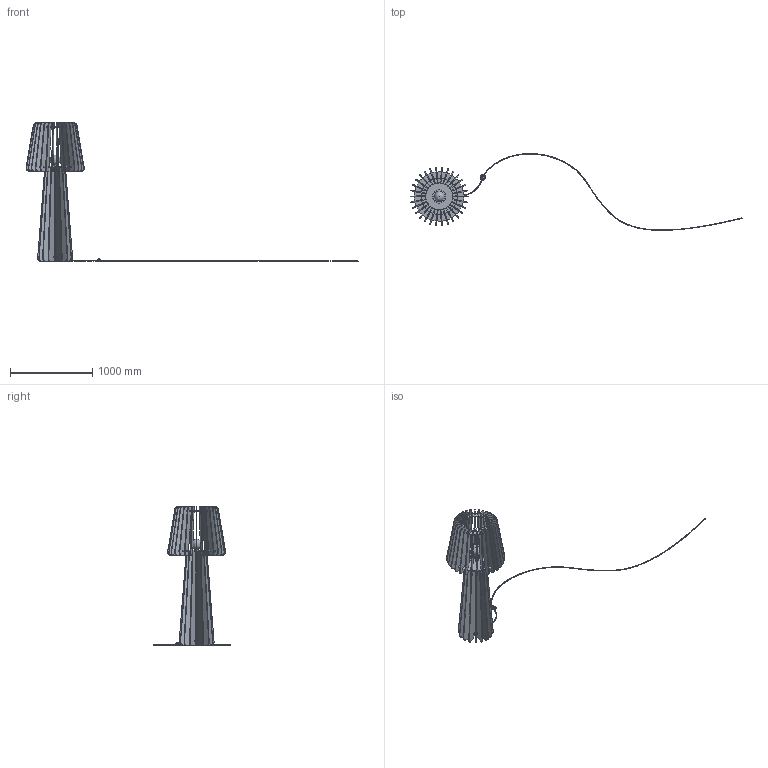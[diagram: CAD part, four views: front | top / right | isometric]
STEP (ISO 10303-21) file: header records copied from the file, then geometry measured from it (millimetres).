
FILE_DESCRIPTION(/* description */ ('','CAx-IF Rec.Pracs.---Representation and Presentation of Product Manufacturing Information (PMI)---4.0---2014-10-13'),/* implementation_level */ '2;1');
FILE_NAME(/* name */ 'pycknic new rounded.step',/* time_stamp */ '2025-03-12T09:01:16+01:00',/* author */ (''),/* organization */ (''),/* preprocessor_version */ 'ST-DEVELOPER v20',/* originating_system */ 'Autodesk Translation Framework v13.20.0.188',/* authorisation */ '');
FILE_SCHEMA (('AP242_MANAGED_MODEL_BASED_3D_ENGINEERING_MIM_LF { 1 0 10303 442 1 1 4 }'));
Length unit declared in the file: millimetre
Products named in the file (17): assem; ring 3; ring 2; ring 1; Pyknic 3D file_Component11; Pyknic 3D file_Component2; Pyknic 3D file_Component3; Pyknic 3D file_Component4; Pyknic 3D file_Component5; Pyknic 3D file_Component6; Pyknic 3D file_Component7; Pyknic 3D file_Component8; Pyknic 3D file_Component9; Pyknic 3D file_Component10; Pyknic 3D file_Component12; Pyknic lamel optie 2; lamel 2
Assembly tree (60 placements, depth 2):
  assem
    ring 3
    ring 2
    ring 1
    Pyknic 3D file_Component11
    Pyknic 3D file_Component2
    Pyknic 3D file_Component3
    Pyknic 3D file_Component4
    Pyknic 3D file_Component5
    Pyknic 3D file_Component6
    Pyknic 3D file_Component7
    Pyknic 3D file_Component8
    Pyknic 3D file_Component9
    Pyknic 3D file_Component10
    Pyknic 3D file_Component12
    Pyknic lamel optie 2  x30
    lamel 2  x16
Bounding box: 4025.11 x 931.86 x 1681 mm (x, y, z)
Volume: 41158957.2 mm3; surface area: 10133001.5 mm2
Topology: 59 solids, 60 shells, 1314 faces, 3564 edges, 2372 vertices
Faces by surface type: plane 993, cylinder 189, bspline 127, torus 5
Full cylindrical faces by diameter (mm): 1.71 x6, 3.5 x12, 6 x1, 13 x1, 36 x1, 38 x9, 43 x2, 56.5 x2, 328.84 x1
Entity records: 22407 total; most frequent: CARTESIAN_POINT 8614, ORIENTED_EDGE 2869, DIRECTION 2490, EDGE_CURVE 1435, LINE 1066, VECTOR 1066, VERTEX_POINT 951, AXIS2_PLACEMENT_3D 712
